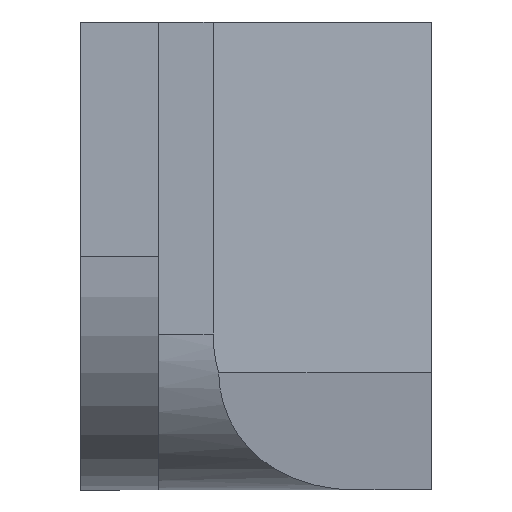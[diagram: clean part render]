
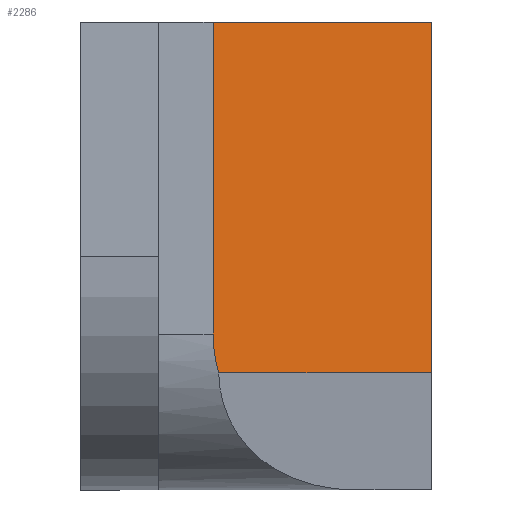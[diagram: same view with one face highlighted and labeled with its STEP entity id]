
A CAD part, left-side view. The second image highlights one B-rep face of the part: STEP entity #2286.
In plain terms, the highlighted planar face has unit normal (-0.746, -0.666, 0).
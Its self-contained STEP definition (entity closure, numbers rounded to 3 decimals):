
#11 = DIRECTION ( 'NONE',  ( 0., 0., 1. ) ) ;
#119 = LINE ( 'NONE', #2608, #1820 ) ;
#145 = DIRECTION ( 'NONE',  ( 0., 0., 1. ) ) ;
#247 =( BOUNDED_CURVE ( )  B_SPLINE_CURVE ( 3, ( #1495, #1209, #922, #633 ),
 .UNSPECIFIED., .F., .F. ) 
 B_SPLINE_CURVE_WITH_KNOTS ( ( 4, 4 ),
 ( 3.142, 3.394 ),
 .UNSPECIFIED. ) 
 CURVE ( )  GEOMETRIC_REPRESENTATION_ITEM ( )  RATIONAL_B_SPLINE_CURVE ( ( 1., 0.995, 0.995, 1. ) ) 
 REPRESENTATION_ITEM ( '' )  );
#268 = VERTEX_POINT ( 'NONE', #2211 ) ;
#273 = VERTEX_POINT ( 'NONE', #1937 ) ;
#285 = CARTESIAN_POINT ( 'NONE',  ( -2.5, 0., -3. ) ) ;
#289 = EDGE_CURVE ( 'NONE', #365, #296, #119, .T. ) ;
#296 = VERTEX_POINT ( 'NONE', #1715 ) ;
#353 = EDGE_CURVE ( 'NONE', #1691, #268, #1993, .T. ) ;
#365 = VERTEX_POINT ( 'NONE', #2201 ) ;
#427 = CARTESIAN_POINT ( 'NONE',  ( -5., 2.8, -3. ) ) ;
#633 = CARTESIAN_POINT ( 'NONE',  ( -4.936, 2.729, -1.5 ) ) ;
#721 = LINE ( 'NONE', #427, #1645 ) ;
#804 = ORIENTED_EDGE ( 'NONE', *, *, #2383, .T. ) ;
#805 = VECTOR ( 'NONE', #852, 1000. ) ;
#832 = CARTESIAN_POINT ( 'NONE',  ( -2.5, 0., 3. ) ) ;
#852 = DIRECTION ( 'NONE',  ( -0.666, 0.746, 0. ) ) ;
#922 = CARTESIAN_POINT ( 'NONE',  ( -4.979, 2.776, -1.336 ) ) ;
#1003 = EDGE_LOOP ( 'NONE', ( #2544, #804, #2503, #1095, #2299 ) ) ;
#1095 = ORIENTED_EDGE ( 'NONE', *, *, #2694, .T. ) ;
#1135 = CARTESIAN_POINT ( 'NONE',  ( -5., 2.8, 3. ) ) ;
#1209 = CARTESIAN_POINT ( 'NONE',  ( -5., 2.8, -1.169 ) ) ;
#1387 = DIRECTION ( 'NONE',  ( -0.666, 0.746, 0. ) ) ;
#1495 = CARTESIAN_POINT ( 'NONE',  ( -5., 2.8, -1. ) ) ;
#1645 = VECTOR ( 'NONE', #145, 1000. ) ;
#1674 = DIRECTION ( 'NONE',  ( 0.746, 0.666, 0. ) ) ;
#1691 = VERTEX_POINT ( 'NONE', #832 ) ;
#1715 = CARTESIAN_POINT ( 'NONE',  ( -2.5, 0., -1.5 ) ) ;
#1733 = LINE ( 'NONE', #285, #2074 ) ;
#1820 = VECTOR ( 'NONE', #2333, 1000. ) ;
#1937 = CARTESIAN_POINT ( 'NONE',  ( -5., 2.8, -1. ) ) ;
#1954 = CARTESIAN_POINT ( 'NONE',  ( -5., 2.8, -3. ) ) ;
#1993 = LINE ( 'NONE', #1135, #805 ) ;
#2074 = VECTOR ( 'NONE', #11, 1000. ) ;
#2201 = CARTESIAN_POINT ( 'NONE',  ( -4.936, 2.729, -1.5 ) ) ;
#2211 = CARTESIAN_POINT ( 'NONE',  ( -5., 2.8, 3. ) ) ;
#2230 = PLANE ( 'NONE',  #2732 ) ;
#2286 = ADVANCED_FACE ( 'NONE', ( #2391 ), #2230, .F. ) ;
#2299 = ORIENTED_EDGE ( 'NONE', *, *, #353, .T. ) ;
#2333 = DIRECTION ( 'NONE',  ( 0.666, -0.746, 0. ) ) ;
#2383 = EDGE_CURVE ( 'NONE', #273, #365, #247, .T. ) ;
#2391 = FACE_OUTER_BOUND ( 'NONE', #1003, .T. ) ;
#2503 = ORIENTED_EDGE ( 'NONE', *, *, #289, .T. ) ;
#2544 = ORIENTED_EDGE ( 'NONE', *, *, #2613, .F. ) ;
#2608 = CARTESIAN_POINT ( 'NONE',  ( -5., 2.8, -1.5 ) ) ;
#2613 = EDGE_CURVE ( 'NONE', #273, #268, #721, .T. ) ;
#2694 = EDGE_CURVE ( 'NONE', #296, #1691, #1733, .T. ) ;
#2732 = AXIS2_PLACEMENT_3D ( 'NONE', #1954, #1674, #1387 ) ;
